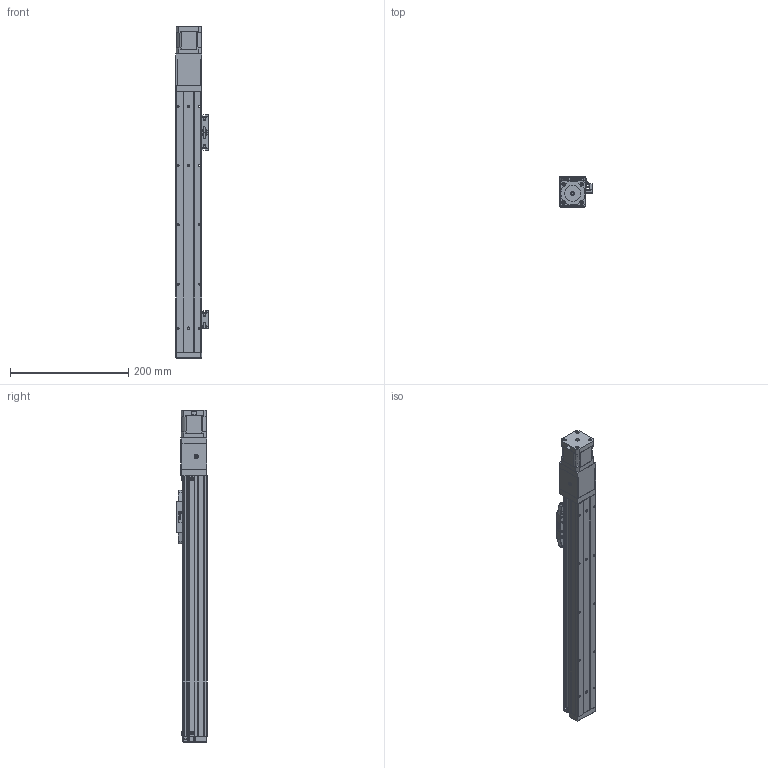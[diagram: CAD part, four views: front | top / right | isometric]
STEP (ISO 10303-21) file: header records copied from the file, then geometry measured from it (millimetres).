
FILE_DESCRIPTION (( 'STEP AP203' ), '1' );
FILE_NAME ('GTH4-300-BC-B42-C4.step', '2023-02-14T00:14:47', ( '微软用户' ), ( '微软中国' ), 'SwSTEP 2.0', 'SolidWorks 2020', '' );
FILE_SCHEMA (( 'CONFIG_CONTROL_DESIGN' ));
Length unit declared in the file: millimetre
Products named in the file (19): GBT70.1-2000 M3×16; GBT 70.1-M2.5×6; GTH4-300-BC-B42-C4; BTH50-028; BTH40-004; BTH50-023; BTH40-013; BTH40-001-50_BTH40-001-300; BTH50-024; GBT 70.3-M3℅6; BTH40-003; GBT 70.1-M3℅6; BTH40-017; BTH40-006; GBT96.1-2002 3×0.8; BTH40-005-1; BTH-M3X5X6; BTH40-022; 42CM06
Assembly tree (49 placements, depth 2):
  GTH4-300-BC-B42-C4
    BTH40-001-50_BTH40-001-300
    BTH40-003
    BTH40-006
    BTH-M3X5X6  x10
    GBT70.1-2000 M3×16  x4
    BTH50-028  x2
    BTH50-023  x3
    BTH50-024  x3
    GBT 70.1-M3℅6  x6
    GBT96.1-2002 3×0.8  x6
    BTH40-022
    GBT 70.1-M2.5×6  x2
    BTH40-004
    BTH40-013
    GBT 70.3-M3℅6  x4
    BTH40-017
    BTH40-005-1
    42CM06
Bounding box: 55.2 x 52 x 561 mm (x, y, z)
Volume: 865080 mm3; surface area: 198232.1 mm2
Topology: 58 solids, 58 shells, 3290 faces, 7682 edges, 4612 vertices
Faces by surface type: cone 1475, plane 1112, cylinder 539, torus 128, bspline 24, sphere 12
Entity records: 75386 total; most frequent: DIRECTION 13437, CARTESIAN_POINT 13181, ORIENTED_EDGE 11826, EDGE_CURVE 5913, AXIS2_PLACEMENT_3D 5095, VERTEX_POINT 3543, LINE 3247, VECTOR 3247
